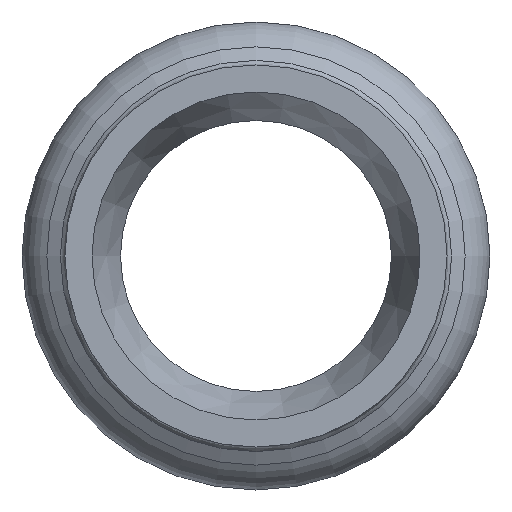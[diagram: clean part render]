
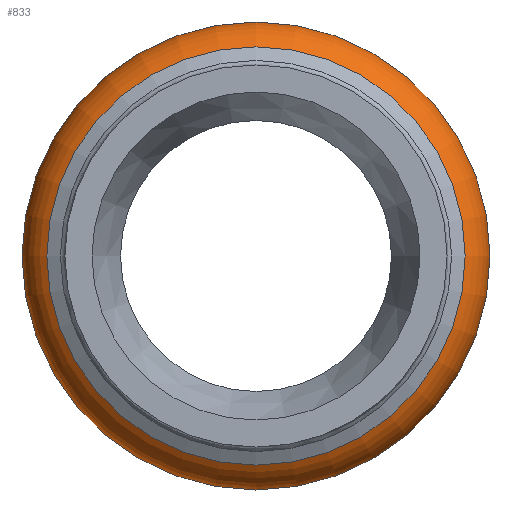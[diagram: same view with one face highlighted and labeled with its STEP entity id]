
A CAD part, left-side view. The second image highlights one B-rep face of the part: STEP entity #833.
In plain terms, the highlighted toroidal (fillet/blend) face has major radius 10.2 mm and minor radius 2.75 mm.
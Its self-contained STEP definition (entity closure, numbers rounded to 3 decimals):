
#651=CARTESIAN_POINT('',(-60.352,10.94,0.0));
#652=VERTEX_POINT('',#651);
#653=CARTESIAN_POINT('',(-60.352,0.,0.0));
#654=DIRECTION('',(1.0,0.0,0.0));
#655=DIRECTION('',(0.0,-1.0,0.0));
#656=AXIS2_PLACEMENT_3D('',#653,#654,#655);
#657=CIRCLE('',#656,10.94);
#658=EDGE_CURVE('',#652,#652,#657,.T.);
#795=CARTESIAN_POINT('',(-65.382,11.575,0.0));
#796=VERTEX_POINT('',#795);
#797=CARTESIAN_POINT('',(-65.382,0.,0.0));
#798=DIRECTION('',(1.0,0.0,0.0));
#799=DIRECTION('',(0.0,1.0,0.0));
#800=AXIS2_PLACEMENT_3D('',#797,#798,#799);
#801=CIRCLE('',#800,11.575);
#802=EDGE_CURVE('',#796,#796,#801,.T.);
#822=CARTESIAN_POINT('',(-63.,0.,0.0));
#823=DIRECTION('',(1.0,0.,0.0));
#824=DIRECTION('',(0.0,0.0,-1.0));
#825=AXIS2_PLACEMENT_3D('',#822,#823,#824);
#826=TOROIDAL_SURFACE('',#825,10.2,2.75);
#827=ORIENTED_EDGE('',*,*,#802,.T.);
#828=EDGE_LOOP('',(#827));
#829=FACE_OUTER_BOUND('',#828,.T.);
#830=ORIENTED_EDGE('',*,*,#658,.F.);
#831=EDGE_LOOP('',(#830));
#832=FACE_BOUND('',#831,.T.);
#833=ADVANCED_FACE('',(#829,#832),#826,.T.);
